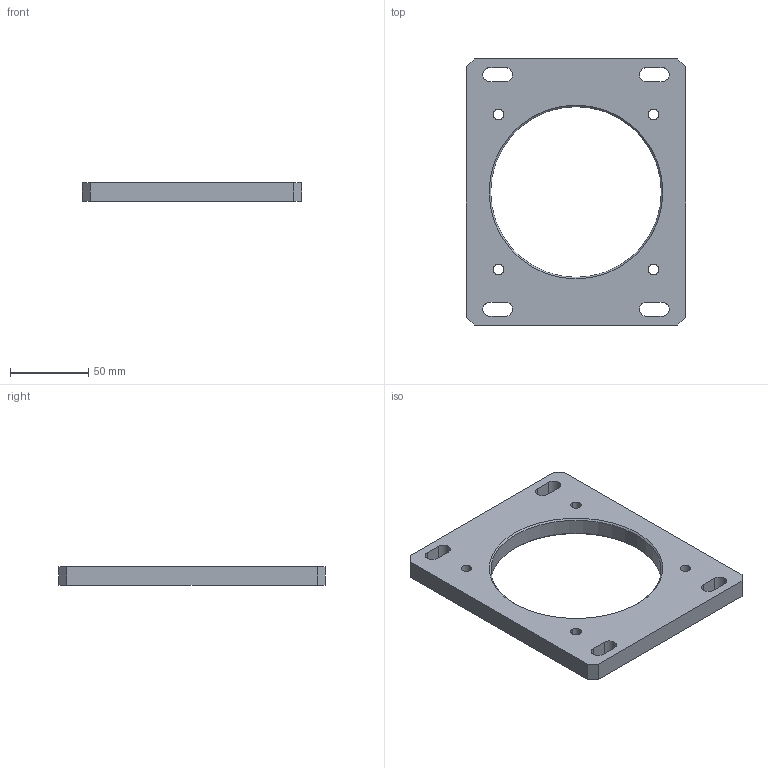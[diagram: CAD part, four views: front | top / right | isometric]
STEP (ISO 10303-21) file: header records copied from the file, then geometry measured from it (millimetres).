
FILE_DESCRIPTION (( 'STEP AP203' ), '1' );
FILE_NAME ('YWSD-2026-03-01-03=001 公转驱动安装板.STEP', '2026-07-24T07:31:47', ( 'Windows 用户' ), ( '' ), 'SwSTEP 2.0', 'SolidWorks 2024', '' );
FILE_SCHEMA (( 'CONFIG_CONTROL_DESIGN' ));
Length unit declared in the file: millimetre
Products named in the file (1): YWSD-2026-03-01-03=001 公转驱动安装板
Bounding box: 140 x 170 x 12 mm (x, y, z)
Volume: 162954.1 mm3; surface area: 42148.3 mm2
Topology: 1 solids, 1 shells, 52 faces, 142 edges, 90 vertices
Faces by surface type: cylinder 26, plane 18, cone 8
Entity records: 1743 total; most frequent: DIRECTION 300, CARTESIAN_POINT 281, ORIENTED_EDGE 276, EDGE_CURVE 138, AXIS2_PLACEMENT_3D 109, VERTEX_POINT 90, LINE 82, VECTOR 82
